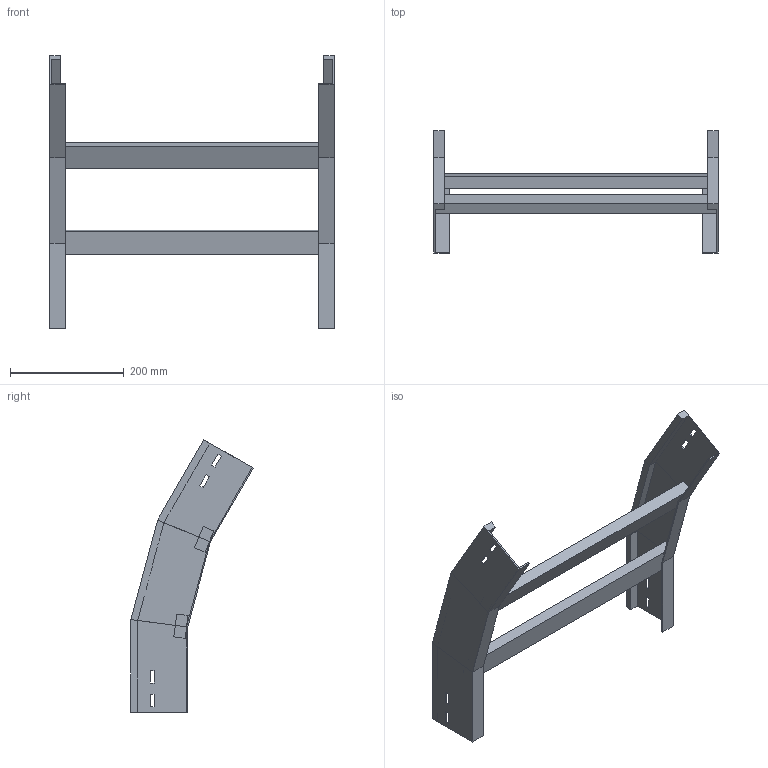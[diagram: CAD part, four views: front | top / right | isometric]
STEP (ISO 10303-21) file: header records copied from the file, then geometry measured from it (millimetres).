
FILE_DESCRIPTION (( 'STEP AP214' ), '1' );
FILE_NAME ('A2_35B3D500.step', '2025-02-21T14:46:20', ( '' ), ( '' ), 'SwSTEP 2.0', 'SolidWorks 2023', '' );
FILE_SCHEMA (( 'AUTOMOTIVE_DESIGN' ));
Length unit declared in the file: millimetre
Products named in the file (3): TRAVERSINO_500; LONGH.DISCESA_30°_H100_R300; A2_35B3D500
Assembly tree (5 placements, depth 2):
  A2_35B3D500
    LONGH.DISCESA_30°_H100_R300  x2
    TRAVERSINO_500  x3
Bounding box: 500 x 215.12 x 479.62 mm (x, y, z)
Volume: 1634629.4 mm3; surface area: 459363.6 mm2
Topology: 5 solids, 5 shells, 102 faces, 244 edges, 152 vertices
Faces by surface type: plane 102
Entity records: 1480 total; most frequent: CARTESIAN_POINT 244, ORIENTED_EDGE 232, DIRECTION 228, LINE 116, EDGE_CURVE 116, VECTOR 116, VERTEX_POINT 72, AXIS2_PLACEMENT_3D 56
